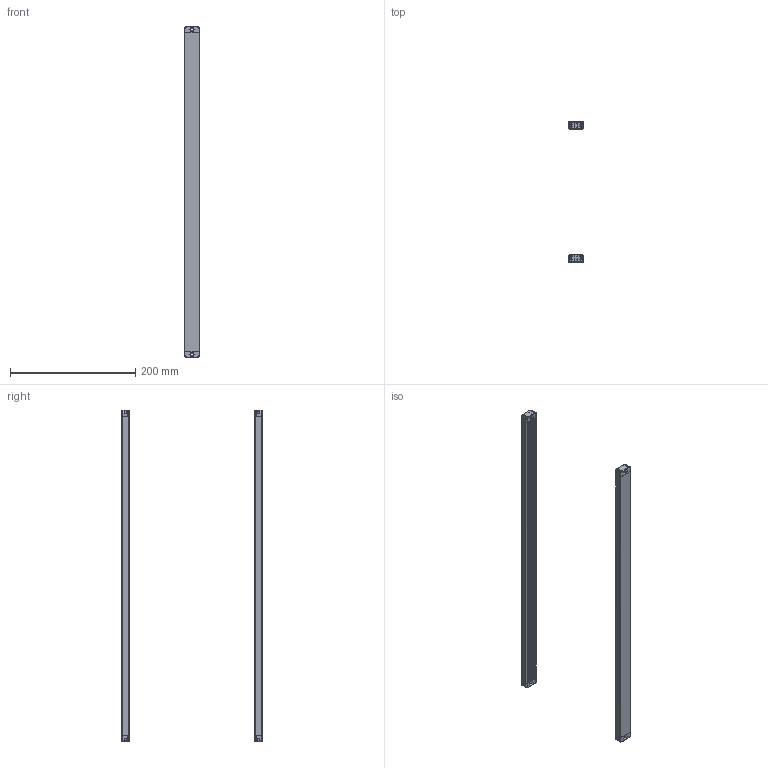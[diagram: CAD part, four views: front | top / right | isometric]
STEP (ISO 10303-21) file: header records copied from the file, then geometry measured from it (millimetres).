
FILE_DESCRIPTION (( 'STEP AP203' ), '1' );
FILE_NAME ('ZDB2620-510.STEP', '2022-08-31T03:14:37', ( 'Windows 蚚誧' ), ( 'Organization' ), 'SwSTEP 2.0', 'SolidWorks 2020', '' );
FILE_SCHEMA (( 'CONFIG_CONTROL_DESIGN' ));
Length unit declared in the file: millimetre
Products named in the file (4): 傷裔衵; 媼啃3臏倰第; 傷裔酘諉彶; ZDB2620-510
Assembly tree (6 placements, depth 2):
  ZDB2620-510
    傷裔衵  x2
    傷裔酘諉彶  x2
    媼啃3臏倰第  x2
Bounding box: 25 x 224 x 530 mm (x, y, z)
Volume: 102960.9 mm3; surface area: 165310.4 mm2
Topology: 6 solids, 6 shells, 650 faces, 1758 edges, 1124 vertices
Faces by surface type: plane 406, cylinder 188, torus 32, bspline 16, sphere 8
Entity records: 11427 total; most frequent: CARTESIAN_POINT 2721, ORIENTED_EDGE 1750, DIRECTION 1687, EDGE_CURVE 875, VECTOR 631, LINE 631, VERTEX_POINT 562, AXIS2_PLACEMENT_3D 528
